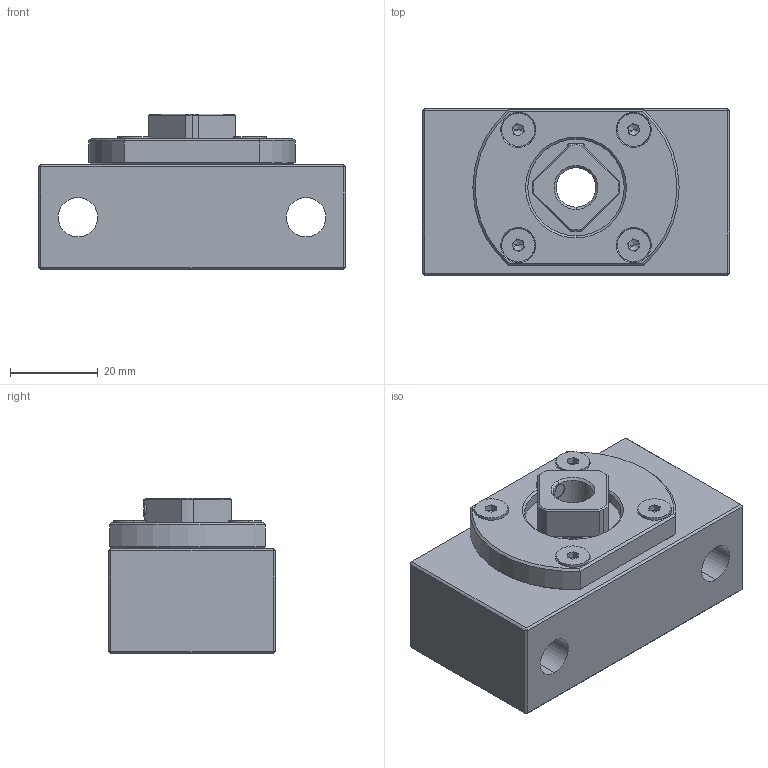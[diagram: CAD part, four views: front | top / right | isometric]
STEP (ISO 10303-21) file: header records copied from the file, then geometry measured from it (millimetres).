
FILE_DESCRIPTION (( 'STEP AP203' ), '1' );
FILE_NAME ('CSGK-10_203.STEP', '2013-03-03T01:36:10', ( 'Z77' ), ( '' ), 'SwSTEP 2.0', 'SolidWorks 2012', '' );
FILE_SCHEMA (( 'CONFIG_CONTROL_DESIGN' ));
Length unit declared in the file: millimetre
Products named in the file (1): CSGK-10_203
Bounding box: 70 x 38 x 35.5 mm (x, y, z)
Volume: 62794 mm3; surface area: 18608.9 mm2
Topology: 1 solids, 17 shells, 344 faces, 765 edges, 447 vertices
Faces by surface type: plane 133, cone 94, cylinder 93, torus 24
Entity records: 9512 total; most frequent: DIRECTION 1743, CARTESIAN_POINT 1718, ORIENTED_EDGE 1494, EDGE_CURVE 747, AXIS2_PLACEMENT_3D 690, VERTEX_POINT 447, EDGE_LOOP 382, LINE 363
